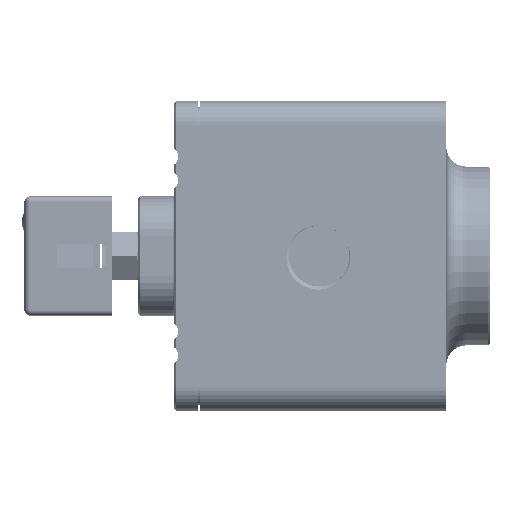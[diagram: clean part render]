
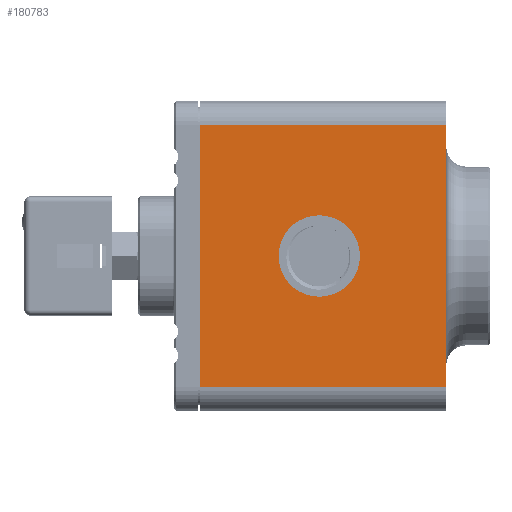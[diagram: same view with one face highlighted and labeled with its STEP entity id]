
A CAD part, left-side view. The second image highlights one B-rep face of the part: STEP entity #180783.
In plain terms, the highlighted planar face has unit normal (-1, 0, 0).
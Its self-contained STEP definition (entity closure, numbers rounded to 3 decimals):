
#9525 = CARTESIAN_POINT ( 'NONE',  ( -75., 0., 33. ) ) ;
#9831 = ORIENTED_EDGE ( 'NONE', *, *, #118827, .T. ) ;
#12244 = VECTOR ( 'NONE', #133838, 1000. ) ;
#12454 = EDGE_CURVE ( 'NONE', #66608, #130180, #193262, .T. ) ;
#12699 = EDGE_CURVE ( 'NONE', #42623, #42623, #21461, .T. ) ;
#13781 = VERTEX_POINT ( 'NONE', #191594 ) ;
#17700 = DIRECTION ( 'NONE',  ( 0., -1., 0. ) ) ;
#19954 = DIRECTION ( 'NONE',  ( 0., 0., -1. ) ) ;
#21461 = CIRCLE ( 'NONE', #161329, 10.25 ) ;
#25263 = DIRECTION ( 'NONE',  ( -1., 0., 0. ) ) ;
#36202 = FACE_BOUND ( 'NONE', #111223, .T. ) ;
#38118 = LINE ( 'NONE', #9525, #12244 ) ;
#38543 = CARTESIAN_POINT ( 'NONE',  ( -75., -30., 0. ) ) ;
#42623 = VERTEX_POINT ( 'NONE', #166892 ) ;
#66608 = VERTEX_POINT ( 'NONE', #131104 ) ;
#76804 = LINE ( 'NONE', #169519, #143924 ) ;
#79732 = VECTOR ( 'NONE', #84293, 1000. ) ;
#81136 = CARTESIAN_POINT ( 'NONE',  ( -75., -62., 39. ) ) ;
#83102 = PLANE ( 'NONE',  #189489 ) ;
#84103 = CARTESIAN_POINT ( 'NONE',  ( -75., 0., 39. ) ) ;
#84293 = DIRECTION ( 'NONE',  ( 0., 0., 1. ) ) ;
#85320 = CARTESIAN_POINT ( 'NONE',  ( -75., 0., 39. ) ) ;
#86126 = ORIENTED_EDGE ( 'NONE', *, *, #12699, .F. ) ;
#98113 = ORIENTED_EDGE ( 'NONE', *, *, #121944, .T. ) ;
#98451 = ORIENTED_EDGE ( 'NONE', *, *, #12454, .F. ) ;
#99695 = DIRECTION ( 'NONE',  ( 0., 0., 1. ) ) ;
#100408 = DIRECTION ( 'NONE',  ( 0., 0., 1. ) ) ;
#110843 = ORIENTED_EDGE ( 'NONE', *, *, #195447, .T. ) ;
#111223 = EDGE_LOOP ( 'NONE', ( #86126 ) ) ;
#118827 = EDGE_CURVE ( 'NONE', #178662, #130180, #38118, .T. ) ;
#121944 = EDGE_CURVE ( 'NONE', #66608, #13781, #76804, .T. ) ;
#130180 = VERTEX_POINT ( 'NONE', #137304 ) ;
#131104 = CARTESIAN_POINT ( 'NONE',  ( -75., 0., -33. ) ) ;
#133838 = DIRECTION ( 'NONE',  ( 0., 1., 0. ) ) ;
#135409 = VECTOR ( 'NONE', #100408, 1000. ) ;
#137304 = CARTESIAN_POINT ( 'NONE',  ( -75., 0., 33. ) ) ;
#143924 = VECTOR ( 'NONE', #17700, 1000. ) ;
#146200 = DIRECTION ( 'NONE',  ( 1., 0., 0. ) ) ;
#147202 = FACE_OUTER_BOUND ( 'NONE', #185415, .T. ) ;
#161329 = AXIS2_PLACEMENT_3D ( 'NONE', #38543, #25263, #99695 ) ;
#166892 = CARTESIAN_POINT ( 'NONE',  ( -75., -30., 10.25 ) ) ;
#169519 = CARTESIAN_POINT ( 'NONE',  ( -75., 0., -33. ) ) ;
#178662 = VERTEX_POINT ( 'NONE', #196249 ) ;
#180783 = ADVANCED_FACE ( 'NONE', ( #36202, #147202 ), #83102, .F. ) ;
#185415 = EDGE_LOOP ( 'NONE', ( #98451, #98113, #110843, #9831 ) ) ;
#189489 = AXIS2_PLACEMENT_3D ( 'NONE', #84103, #146200, #19954 ) ;
#191594 = CARTESIAN_POINT ( 'NONE',  ( -75., -62., -33. ) ) ;
#193262 = LINE ( 'NONE', #85320, #79732 ) ;
#195447 = EDGE_CURVE ( 'NONE', #13781, #178662, #200367, .T. ) ;
#196249 = CARTESIAN_POINT ( 'NONE',  ( -75., -62., 33. ) ) ;
#200367 = LINE ( 'NONE', #81136, #135409 ) ;
